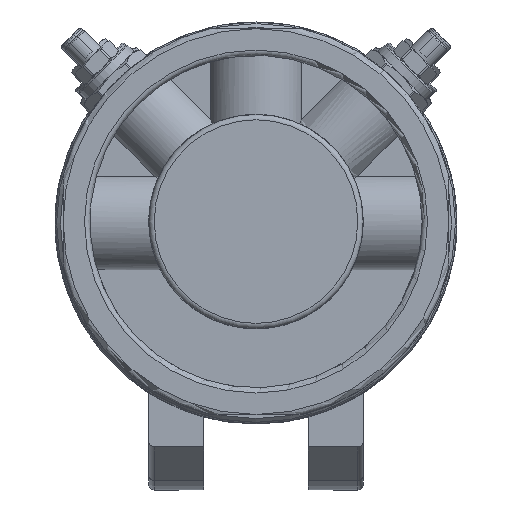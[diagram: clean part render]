
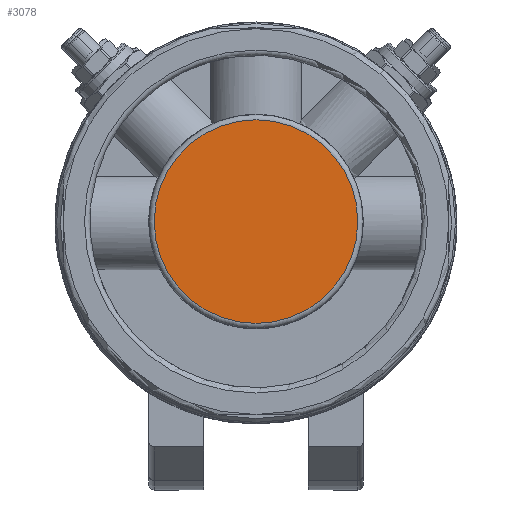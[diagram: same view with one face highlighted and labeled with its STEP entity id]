
A CAD part, top view. The second image highlights one B-rep face of the part: STEP entity #3078.
In plain terms, the highlighted planar face has unit normal (0, 0, 1).
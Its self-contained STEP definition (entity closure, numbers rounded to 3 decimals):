
#2767=CARTESIAN_POINT('',(19.,0.,170.5));
#2768=VERTEX_POINT('',#2767);
#2769=CARTESIAN_POINT('',(0.,0.,170.5));
#2770=DIRECTION('',(0.0,0.0,-1.0));
#2771=DIRECTION('',(-1.0,0.0,0.0));
#2772=AXIS2_PLACEMENT_3D('',#2769,#2770,#2771);
#2773=CIRCLE('',#2772,19.0);
#2774=EDGE_CURVE('',#2768,#2768,#2773,.T.);
#3070=CARTESIAN_POINT('',(0.,0.,170.5));
#3071=DIRECTION('',(0.0,0.0,-1.0));
#3072=DIRECTION('',(-1.0,0.0,0.0));
#3073=AXIS2_PLACEMENT_3D('',#3070,#3071,#3072);
#3074=PLANE('',#3073);
#3075=ORIENTED_EDGE('',*,*,#2774,.F.);
#3076=EDGE_LOOP('',(#3075));
#3077=FACE_OUTER_BOUND('',#3076,.T.);
#3078=ADVANCED_FACE('',(#3077),#3074,.F.);
